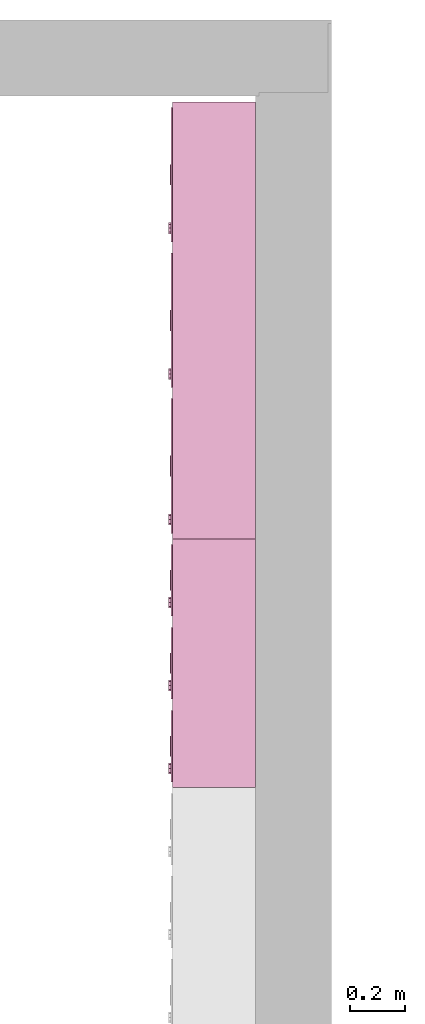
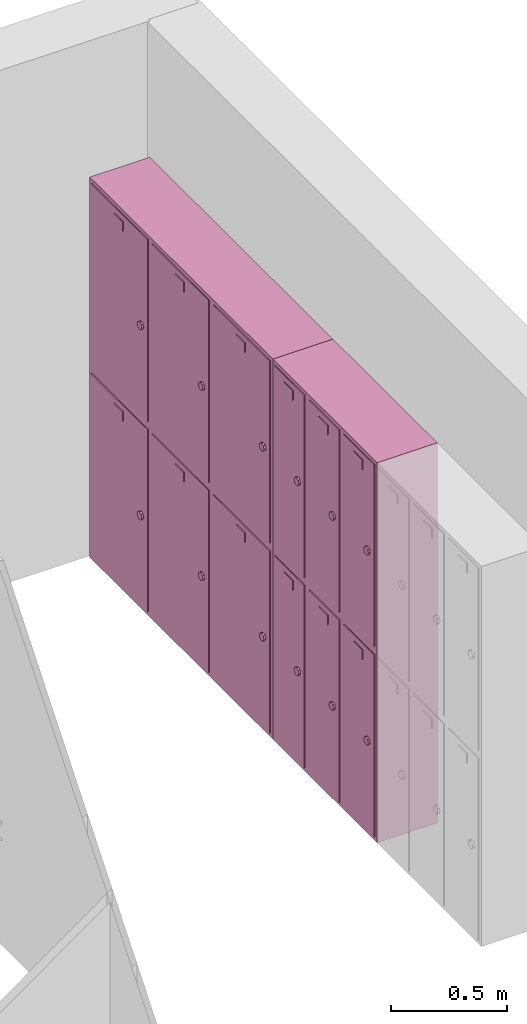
# One storey, part 15 of 22: 2 furnishings.
"""IFC2X3 building model written with IfcOpenShell, lengths in millimetres."""

from ifc_helpers import new_model, entity, si_unit, converted_unit, derived_unit, direction, frame, frame_2d, origin, origin_2d_with_axis, place, context, subcontext, project, spatial, polyline, rectangle, outline, extrude, source, transform, mapped, material, material_list, type_object, type_shapes, element, save


model = new_model("IFC2X3")

# Units and contexts
model_context = context("Model", 3, precision=0.01, world=origin(), true_north=direction((6.12303176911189e-17, 1.0)))
body_context = subcontext(model_context, "Body", "Model", "MODEL_VIEW")
ifc_project = project(units=[si_unit("LENGTHUNIT", "METRE", prefix="MILLI"), si_unit("AREAUNIT", "SQUARE_METRE"), si_unit("VOLUMEUNIT", "CUBIC_METRE"), converted_unit("PLANEANGLEUNIT", "DEGREE", entity("IfcRatioMeasure", 0.0174532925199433), si_unit("PLANEANGLEUNIT", "RADIAN"), dimensions=[0, 0, 0, 0, 0, 0, 0]), si_unit("MASSUNIT", "GRAM", prefix="KILO"), derived_unit("MASSDENSITYUNIT", [(si_unit("MASSUNIT", "GRAM", prefix="KILO"), 1), (si_unit("LENGTHUNIT", "METRE"), -3)]), si_unit("TIMEUNIT", "SECOND"), si_unit("FREQUENCYUNIT", "HERTZ"), si_unit("THERMODYNAMICTEMPERATUREUNIT", "DEGREE_CELSIUS"), derived_unit("THERMALTRANSMITTANCEUNIT", [(si_unit("MASSUNIT", "GRAM", prefix="KILO"), 1), (si_unit("THERMODYNAMICTEMPERATUREUNIT", "KELVIN"), -1), (si_unit("TIMEUNIT", "SECOND"), -3)]), derived_unit("VOLUMETRICFLOWRATEUNIT", [(si_unit("LENGTHUNIT", "METRE"), 3), (si_unit("TIMEUNIT", "SECOND"), -1)]), si_unit("ELECTRICCURRENTUNIT", "AMPERE"), si_unit("ELECTRICVOLTAGEUNIT", "VOLT"), si_unit("POWERUNIT", "WATT"), si_unit("FORCEUNIT", "NEWTON", prefix="KILO"), si_unit("ILLUMINANCEUNIT", "LUX"), si_unit("LUMINOUSFLUXUNIT", "LUMEN"), si_unit("LUMINOUSINTENSITYUNIT", "CANDELA"), derived_unit("USERDEFINED", [(si_unit("MASSUNIT", "GRAM", prefix="KILO"), -1), (si_unit("LENGTHUNIT", "METRE"), -2), (si_unit("TIMEUNIT", "SECOND"), 3), (si_unit("LUMINOUSFLUXUNIT", "LUMEN"), 1)]), derived_unit("LINEARVELOCITYUNIT", [(si_unit("LENGTHUNIT", "METRE"), 1), (si_unit("TIMEUNIT", "SECOND"), -1)]), si_unit("PRESSUREUNIT", "PASCAL"), derived_unit("USERDEFINED", [(si_unit("LENGTHUNIT", "METRE"), -2), (si_unit("MASSUNIT", "GRAM", prefix="KILO"), 1), (si_unit("TIMEUNIT", "SECOND"), -2)])], contexts=[model_context])

# Site, building, storey
site_placement = place(None, origin())
site = spatial("IfcSite", under=ifc_project, at=site_placement, Name="Default", CompositionType="ELEMENT")
building_placement = place(site_placement, origin())
building = spatial("IfcBuilding", under=site, at=building_placement, CompositionType="ELEMENT")
storey_placement = place(building_placement, frame((0.0, 0.0, -3000.0)))
storey = spatial("IfcBuildingStorey", under=building, at=storey_placement, Name="-2. Story", CompositionType="ELEMENT", Elevation=-3000.0)

# Furnishings
ifc_material_1 = material(Name="Metal - Stainless Steel")
ifc_material_2 = material(Name="Paint - Glossy White")
ifc_material_3 = material(Name="Paint - Cobalt Blue")
ifc_material_list_1 = material_list([ifc_material_1, ifc_material_2, ifc_material_3])
ifc_material_list_2 = material_list([ifc_material_1, ifc_material_2, ifc_material_3])
furniture_type_1 = type_object("IfcFurnitureType", Name="FU - 010", material=ifc_material_list_2)
shared_shape_1 = source(origin(), body_context, "Body", "SweptSolid", [
    extrude(outline(polyline([(-7.65366865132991, -18.4775906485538), (7.65366864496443, -18.4775906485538), (18.4775906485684, -7.65366865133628), (18.4775906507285, 7.65366863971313), (7.65366865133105, 18.4775906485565), (-7.65366864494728, 18.4775906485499), (-18.4775906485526, 7.65366865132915), (-18.4775906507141, -7.65366863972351), (-7.65366865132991, -18.4775906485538)])), frame((53933.5254833, 88673.9483369, -1400.0), z_axis=(1.0, 0.0, 0.0), x_axis=(0.0, 0.923879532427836, 0.382683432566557)), (0.0, 0.0, 1.0), 10.0000000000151),
    extrude(rectangle(XDim=4.99999999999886, YDim=75.0000000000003, at=origin_2d_with_axis()), frame((53941.0254833, 88753.9483369, -1000.0), z_axis=(0.0, 0.0, 1.0), x_axis=(-1.0, 0.0, 0.0)), (0.0, 0.0, 1.0), 50.0),
    extrude(rectangle(XDim=9.99999999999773, YDim=259.999999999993, at=frame_2d((0.0, 8.65441052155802e-12), x_axis=(1.0, 0.0))), frame((53948.5254833, 88753.9483369, -1880.0)), (0.0, 0.0, 1.0), 960.0),
    extrude(rectangle(XDim=20.0000000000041, YDim=300.000000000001, at=frame_2d((4.33164615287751e-12, 0.0), x_axis=(1.0, 0.0))), frame((54238.5254833, 88753.9483369, -1900.0), z_axis=(0.0, 0.0, 1.0), x_axis=(-1.0, 0.0, 0.0)), (0.0, 0.0, 1.0), 1000.0),
    extrude(outline(polyline([(-500.0, -150.0), (500.0, -150.0), (500.0, 150.0), (-500.0, 150.0), (-500.0, -150.0)]), holes=[polyline([(480.0, 130.0), (480.0, -130.0), (-480.0, -130.0), (-480.0, 130.0), (480.0, 130.0)])]), frame((53948.5254833, 88753.9483369, -1400.0), z_axis=(1.0, 0.0, 0.0), x_axis=(0.0, 0.0, -1.0)), (0.0, 0.0, 1.0), 279.999999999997),
    extrude(outline(polyline([(-7.65366865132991, -18.4775906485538), (7.65366864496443, -18.4775906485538), (18.4775906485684, -7.65366865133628), (18.4775906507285, 7.65366863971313), (7.65366865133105, 18.4775906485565), (-7.65366864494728, 18.4775906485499), (-18.4775906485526, 7.65366865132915), (-18.4775906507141, -7.65366863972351), (-7.65366865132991, -18.4775906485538)])), frame((53933.5254833, 88373.9483369, -1400.0), z_axis=(1.0, 0.0, 0.0), x_axis=(0.0, 0.923879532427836, 0.382683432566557)), (0.0, 0.0, 1.0), 10.0000000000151),
    extrude(rectangle(XDim=4.99999999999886, YDim=75.0000000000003, at=origin_2d_with_axis()), frame((53941.0254833, 88453.9483369, -1000.0), z_axis=(0.0, 0.0, 1.0), x_axis=(-1.0, 0.0, 0.0)), (0.0, 0.0, 1.0), 50.0),
    extrude(rectangle(XDim=9.99999999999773, YDim=259.999999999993, at=frame_2d((0.0, 8.65441052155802e-12), x_axis=(1.0, 0.0))), frame((53948.5254833, 88453.9483369, -1880.0)), (0.0, 0.0, 1.0), 960.0),
    extrude(rectangle(XDim=20.0000000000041, YDim=300.000000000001, at=frame_2d((4.33164615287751e-12, 0.0), x_axis=(1.0, 0.0))), frame((54238.5254833, 88453.9483369, -1900.0), z_axis=(0.0, 0.0, 1.0), x_axis=(-1.0, 0.0, 0.0)), (0.0, 0.0, 1.0), 1000.0),
    extrude(outline(polyline([(-500.0, -150.0), (500.0, -150.0), (500.0, 150.0), (-500.0, 150.0), (-500.0, -150.0)]), holes=[polyline([(480.0, 130.0), (480.0, -130.0), (-480.0, -130.0), (-480.0, 130.0), (480.0, 130.0)])]), frame((53948.5254833, 88453.9483369, -1400.0), z_axis=(1.0, 0.0, 0.0), x_axis=(0.0, 0.0, -1.0)), (0.0, 0.0, 1.0), 279.999999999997),
    extrude(outline(polyline([(-7.65366865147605, -18.4775906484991), (7.65366864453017, -18.4775906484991), (18.4775906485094, -7.65366865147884), (18.4775906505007, 7.65366863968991), (7.65366865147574, 18.4775906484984), (-7.65366864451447, 18.4775906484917), (-18.4775906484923, 7.65366865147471), (-18.477590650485, -7.65366863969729), (-7.65366865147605, -18.4775906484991)])), frame((53933.5254833, 88073.9483369, -1400.0), z_axis=(1.0, 0.0, 0.0), x_axis=(0.0, 0.923879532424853, 0.38268343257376)), (0.0, 0.0, 1.0), 10.0000000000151),
    extrude(rectangle(XDim=4.99999999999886, YDim=75.0000000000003, at=origin_2d_with_axis()), frame((53941.0254833, 88153.9483369, -1000.0), z_axis=(0.0, 0.0, 1.0), x_axis=(-1.0, 0.0, 0.0)), (0.0, 0.0, 1.0), 50.0),
    extrude(rectangle(XDim=9.99999999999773, YDim=259.999999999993, at=frame_2d((0.0, 8.65441052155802e-12), x_axis=(1.0, 0.0))), frame((53948.5254833, 88153.9483369, -1880.0)), (0.0, 0.0, 1.0), 960.0),
    extrude(rectangle(XDim=20.0000000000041, YDim=299.999999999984, at=frame_2d((4.33164615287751e-12, 8.65441052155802e-12), x_axis=(1.0, 0.0))), frame((54238.5254833, 88153.9483369, -1900.0), z_axis=(0.0, 0.0, 1.0), x_axis=(-1.0, 0.0, 0.0)), (0.0, 0.0, 1.0), 1000.0),
    extrude(outline(polyline([(-500.0, -150.0), (500.0, -150.0), (500.0, 150.0), (-500.0, 150.0), (-500.0, -150.0)]), holes=[polyline([(480.0, 130.0), (480.0, -130.0), (-480.0, -130.0), (-480.0, 130.0), (480.0, 130.0)])]), frame((53948.5254833, 88153.9483369, -1400.0), z_axis=(1.0, 0.0, 0.0), x_axis=(0.0, 0.0, -1.0)), (0.0, 0.0, 1.0), 279.999999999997),
    extrude(outline(polyline([(-7.65366864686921, -18.4775906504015), (7.65366864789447, -18.4775906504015), (18.477590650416, -7.65366864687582), (18.4775906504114, 7.65366864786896), (7.65366864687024, 18.477590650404), (-7.65366864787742, 18.4775906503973), (-18.4775906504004, 7.65366864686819), (-18.4775906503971, -7.65366864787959), (-7.65366864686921, -18.4775906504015)])), frame((53933.5254833, 88673.9483369, -2400.0), z_axis=(1.0, 0.0, 0.0), x_axis=(0.0, 0.923879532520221, 0.382683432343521)), (0.0, 0.0, 1.0), 10.0000000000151),
    extrude(rectangle(XDim=4.99999999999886, YDim=75.0000000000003, at=origin_2d_with_axis()), frame((53941.0254833, 88753.9483369, -2000.0), z_axis=(0.0, 0.0, 1.0), x_axis=(-1.0, 0.0, 0.0)), (0.0, 0.0, 1.0), 50.0),
    extrude(rectangle(XDim=9.99999999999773, YDim=259.999999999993, at=frame_2d((0.0, 8.65441052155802e-12), x_axis=(1.0, 0.0))), frame((53948.5254833, 88753.9483369, -2880.0)), (0.0, 0.0, 1.0), 960.0),
    extrude(rectangle(XDim=20.0000000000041, YDim=300.000000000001, at=frame_2d((4.33164615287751e-12, 0.0), x_axis=(1.0, 0.0))), frame((54238.5254833, 88753.9483369, -2900.0), z_axis=(0.0, 0.0, 1.0), x_axis=(-1.0, 0.0, 0.0)), (0.0, 0.0, 1.0), 1000.0),
    extrude(outline(polyline([(-500.0, -150.0), (500.0, -150.0), (500.0, 150.0), (-500.0, 150.0), (-500.0, -150.0)]), holes=[polyline([(480.0, 130.0), (480.0, -130.0), (-480.0, -130.0), (-480.0, 130.0), (480.0, 130.0)])]), frame((53948.5254833, 88753.9483369, -2400.0), z_axis=(1.0, 0.0, 0.0), x_axis=(0.0, 0.0, -1.0)), (0.0, 0.0, 1.0), 279.999999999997),
    extrude(outline(polyline([(-7.65366864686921, -18.4775906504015), (7.65366864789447, -18.4775906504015), (18.477590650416, -7.65366864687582), (18.4775906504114, 7.65366864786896), (7.65366864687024, 18.477590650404), (-7.65366864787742, 18.4775906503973), (-18.4775906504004, 7.65366864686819), (-18.4775906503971, -7.65366864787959), (-7.65366864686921, -18.4775906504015)])), frame((53933.5254833, 88373.9483369, -2400.0), z_axis=(1.0, 0.0, 0.0), x_axis=(0.0, 0.923879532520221, 0.382683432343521)), (0.0, 0.0, 1.0), 10.0000000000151),
    extrude(rectangle(XDim=4.99999999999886, YDim=75.0000000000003, at=origin_2d_with_axis()), frame((53941.0254833, 88453.9483369, -2000.0), z_axis=(0.0, 0.0, 1.0), x_axis=(-1.0, 0.0, 0.0)), (0.0, 0.0, 1.0), 50.0),
    extrude(rectangle(XDim=9.99999999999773, YDim=259.999999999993, at=frame_2d((0.0, 8.65441052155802e-12), x_axis=(1.0, 0.0))), frame((53948.5254833, 88453.9483369, -2880.0)), (0.0, 0.0, 1.0), 960.0),
    extrude(rectangle(XDim=20.0000000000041, YDim=300.000000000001, at=frame_2d((4.33164615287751e-12, 0.0), x_axis=(1.0, 0.0))), frame((54238.5254833, 88453.9483369, -2900.0), z_axis=(0.0, 0.0, 1.0), x_axis=(-1.0, 0.0, 0.0)), (0.0, 0.0, 1.0), 1000.0),
    extrude(outline(polyline([(-500.0, -150.0), (500.0, -150.0), (500.0, 150.0), (-500.0, 150.0), (-500.0, -150.0)]), holes=[polyline([(480.0, 130.0), (480.0, -130.0), (-480.0, -130.0), (-480.0, 130.0), (480.0, 130.0)])]), frame((53948.5254833, 88453.9483369, -2400.0), z_axis=(1.0, 0.0, 0.0), x_axis=(0.0, 0.0, -1.0)), (0.0, 0.0, 1.0), 279.999999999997),
    extrude(outline(polyline([(-7.65366864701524, -18.4775906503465), (7.65366864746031, -18.4775906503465), (18.477590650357, -7.65366864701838), (18.4775906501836, 7.65366864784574), (7.65366864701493, 18.4775906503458), (-7.65366864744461, 18.4775906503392), (-18.4775906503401, 7.65366864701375), (-18.477590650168, -7.65366864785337), (-7.65366864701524, -18.4775906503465)])), frame((53933.5254833, 88073.9483369, -2400.0), z_axis=(1.0, 0.0, 0.0), x_axis=(0.0, 0.923879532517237, 0.382683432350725)), (0.0, 0.0, 1.0), 10.0000000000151),
    extrude(rectangle(XDim=4.99999999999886, YDim=75.0000000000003, at=origin_2d_with_axis()), frame((53941.0254833, 88153.9483369, -2000.0), z_axis=(0.0, 0.0, 1.0), x_axis=(-1.0, 0.0, 0.0)), (0.0, 0.0, 1.0), 50.0),
    extrude(rectangle(XDim=9.99999999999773, YDim=259.999999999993, at=frame_2d((0.0, 8.65441052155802e-12), x_axis=(1.0, 0.0))), frame((53948.5254833, 88153.9483369, -2880.0)), (0.0, 0.0, 1.0), 960.0),
    extrude(rectangle(XDim=20.0000000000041, YDim=299.999999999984, at=frame_2d((4.33164615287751e-12, 8.65441052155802e-12), x_axis=(1.0, 0.0))), frame((54238.5254833, 88153.9483369, -2900.0), z_axis=(0.0, 0.0, 1.0), x_axis=(-1.0, 0.0, 0.0)), (0.0, 0.0, 1.0), 1000.0),
    extrude(outline(polyline([(-500.0, -150.0), (500.0, -150.0), (500.0, 150.0), (-500.0, 150.0), (-500.0, -150.0)]), holes=[polyline([(480.0, 130.0), (480.0, -130.0), (-480.0, -130.0), (-480.0, 130.0), (480.0, 130.0)])]), frame((53948.5254833, 88153.9483369, -2400.0), z_axis=(1.0, 0.0, 0.0), x_axis=(0.0, 0.0, -1.0)), (0.0, 0.0, 1.0), 279.999999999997),
])
type_shapes(furniture_type_1, [shared_shape_1])
furnishing_1_placement = place(storey_placement, frame((0.0, 0.0, 3000.0)))
element("IfcFurnishingElement", 1, at=furnishing_1_placement, inside=storey, type_object=furniture_type_1, material=ifc_material_list_1, Name="FU - 010 1554754:FU - 010 1554754", ObjectType="FU - 010 1554754:FU - 010 1554754", context=body_context, shape_type="MappedRepresentation", body=[
    mapped(shared_shape_1, transform((0.0, 0.0, 0.0), scale=1.0)),
])
ifc_material_list_3 = material_list([ifc_material_1, ifc_material_2, ifc_material_3])
ifc_material_list_4 = material_list([ifc_material_1, ifc_material_2, ifc_material_3])
furniture_type_2 = type_object("IfcFurnitureType", Name="FU - 010", material=ifc_material_list_4)
shared_shape_2 = source(origin(), body_context, "Body", "SweptSolid", [
    extrude(outline(polyline([(-7.65366865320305, -18.4775906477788), (7.65366863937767, -18.4775906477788), (18.4775906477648, -7.65366865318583), (18.4775906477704, 7.65366863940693), (7.6536686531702, 18.47759064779), (-7.65366863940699, 18.4775906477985), (-18.4775906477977, 7.6536686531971), (-18.4775906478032, -7.65366863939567), (-7.65366865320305, -18.4775906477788)])), frame((53933.5254833, 90026.79658138, -1400.0), z_axis=(1.0, 0.0, 0.0), x_axis=(0.0, 0.92387953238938, 0.382683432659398)), (0.0, 0.0, 1.0), 10.0000000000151),
    extrude(rectangle(XDim=4.99999999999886, YDim=75.0000000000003, at=origin_2d_with_axis()), frame((53941.0254833, 90220.0086425, -1000.0), z_axis=(0.0, 0.0, 1.0), x_axis=(-1.0, 0.0, 0.0)), (0.0, 0.0, 1.0), 50.0),
    extrude(rectangle(XDim=9.99999999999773, YDim=486.424122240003, at=origin_2d_with_axis()), frame((53948.5254833, 90220.0086425, -1880.0)), (0.0, 0.0, 1.0), 960.0),
    extrude(rectangle(XDim=20.0000000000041, YDim=526.424122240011, at=frame_2d((4.33164615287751e-12, 8.64019966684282e-12), x_axis=(1.0, 0.0))), frame((54238.5254833, 90220.0086425, -1900.0), z_axis=(0.0, 0.0, 1.0), x_axis=(-1.0, 0.0, 0.0)), (0.0, 0.0, 1.0), 1000.0),
    extrude(outline(polyline([(-500.0, -263.212061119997), (500.0, -263.212061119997), (500.0, 263.212061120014), (-500.0, 263.212061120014), (-500.0, -263.212061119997)]), holes=[polyline([(480.0, 243.212061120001), (480.0, -243.212061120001), (-480.0, -243.212061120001), (-480.0, 243.212061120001), (480.0, 243.212061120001)])]), frame((53948.5254833, 90220.0086425, -1400.0), z_axis=(1.0, 0.0, 0.0), x_axis=(0.0, 0.0, -1.0)), (0.0, 0.0, 1.0), 279.999999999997),
    extrude(outline(polyline([(-7.65366865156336, -18.4775906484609), (7.65366864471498, -18.4775906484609), (18.477590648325, -7.65366865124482), (18.4775906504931, 7.65366863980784), (7.65366865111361, 18.4775906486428), (-7.65366864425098, 18.4775906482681), (-18.4775906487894, 7.6536686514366), (-18.4775906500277, -7.65366863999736), (-7.65366865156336, -18.4775906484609)])), frame((53933.5254833, 89500.3724591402, -1400.0), z_axis=(1.0, 0.0, 0.0), x_axis=(0.0, 0.923879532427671, 0.382683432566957)), (0.0, 0.0, 1.0), 10.0000000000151),
    extrude(rectangle(XDim=4.99999999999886, YDim=75.0000000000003, at=origin_2d_with_axis()), frame((53941.0254833, 89693.584520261, -1000.0), z_axis=(0.0, 0.0, 1.0), x_axis=(-1.0, 0.0, 0.0)), (0.0, 0.0, 1.0), 50.0),
    extrude(rectangle(XDim=9.99999999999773, YDim=486.424122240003, at=origin_2d_with_axis()), frame((53948.5254833, 89693.58452026, -1880.0)), (0.0, 0.0, 1.0), 960.0),
    extrude(rectangle(XDim=20.0000000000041, YDim=526.424122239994, at=frame_2d((4.33164615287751e-12, 0.0), x_axis=(1.0, 0.0))), frame((54238.5254833, 89693.58452026, -1900.0), z_axis=(0.0, 0.0, 1.0), x_axis=(-1.0, 0.0, 0.0)), (0.0, 0.0, 1.0), 1000.0),
    extrude(outline(polyline([(-500.0, -263.212061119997), (500.0, -263.212061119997), (500.0, 263.212061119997), (-500.0, 263.212061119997), (-500.0, -263.212061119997)]), holes=[polyline([(480.0, 243.212061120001), (480.0, -243.212061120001), (-480.0, -243.212061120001), (-480.0, 243.212061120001), (480.0, 243.212061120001)])]), frame((53948.5254833, 89693.58452026, -1400.0), z_axis=(1.0, 0.0, 0.0), x_axis=(0.0, 0.0, -1.0)), (0.0, 0.0, 1.0), 279.999999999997),
    extrude(outline(polyline([(-7.65366865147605, -18.4775906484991), (7.65366864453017, -18.4775906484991), (18.4775906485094, -7.65366865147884), (18.4775906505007, 7.65366863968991), (7.65366865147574, 18.4775906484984), (-7.65366864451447, 18.4775906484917), (-18.4775906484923, 7.65366865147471), (-18.477590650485, -7.65366863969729), (-7.65366865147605, -18.4775906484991)])), frame((53933.5254833, 88973.9483369, -1400.0), z_axis=(1.0, 0.0, 0.0), x_axis=(0.0, 0.923879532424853, 0.38268343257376)), (0.0, 0.0, 1.0), 10.0000000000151),
    extrude(rectangle(XDim=4.99999999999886, YDim=75.0000000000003, at=origin_2d_with_axis()), frame((53941.0254833, 89167.16039802, -1000.0), z_axis=(0.0, 0.0, 1.0), x_axis=(-1.0, 0.0, 0.0)), (0.0, 0.0, 1.0), 50.0),
    extrude(rectangle(XDim=9.99999999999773, YDim=486.424122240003, at=origin_2d_with_axis()), frame((53948.5254833, 89167.16039802, -1880.0)), (0.0, 0.0, 1.0), 960.0),
    extrude(rectangle(XDim=20.0000000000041, YDim=526.424122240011, at=frame_2d((4.33164615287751e-12, 8.64019966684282e-12), x_axis=(1.0, 0.0))), frame((54238.5254833, 89167.16039802, -1900.0), z_axis=(0.0, 0.0, 1.0), x_axis=(-1.0, 0.0, 0.0)), (0.0, 0.0, 1.0), 1000.0),
    extrude(outline(polyline([(-500.0, -263.212061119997), (500.0, -263.212061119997), (500.0, 263.212061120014), (-500.0, 263.212061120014), (-500.0, -263.212061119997)]), holes=[polyline([(480.0, 243.212061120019), (480.0, -243.212061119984), (-480.0, -243.212061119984), (-480.0, 243.212061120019), (480.0, 243.212061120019)])]), frame((53948.5254833, 89167.16039802, -1400.0), z_axis=(1.0, 0.0, 0.0), x_axis=(0.0, 0.0, -1.0)), (0.0, 0.0, 1.0), 279.999999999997),
    extrude(outline(polyline([(-7.65366864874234, -18.4775906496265), (7.65366864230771, -18.4775906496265), (18.4775906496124, -7.65366864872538), (18.4775906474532, 7.65366864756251), (7.6536686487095, 18.4775906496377), (-7.65366864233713, 18.477590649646), (-18.4775906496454, 7.65366864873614), (-18.4775906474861, -7.6536686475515), (-7.65366864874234, -18.4775906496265)])), frame((53933.5254833, 90026.79658138, -2400.0), z_axis=(1.0, 0.0, 0.0), x_axis=(0.0, 0.923879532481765, 0.382683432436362)), (0.0, 0.0, 1.0), 10.0000000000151),
    extrude(rectangle(XDim=4.99999999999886, YDim=75.0000000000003, at=origin_2d_with_axis()), frame((53941.0254833, 90220.0086425, -2000.0), z_axis=(0.0, 0.0, 1.0), x_axis=(-1.0, 0.0, 0.0)), (0.0, 0.0, 1.0), 50.0),
    extrude(rectangle(XDim=9.99999999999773, YDim=486.424122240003, at=origin_2d_with_axis()), frame((53948.5254833, 90220.0086425, -2880.0)), (0.0, 0.0, 1.0), 960.0),
    extrude(rectangle(XDim=20.0000000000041, YDim=526.424122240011, at=frame_2d((4.33164615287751e-12, 8.64019966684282e-12), x_axis=(1.0, 0.0))), frame((54238.5254833, 90220.0086425, -2900.0), z_axis=(0.0, 0.0, 1.0), x_axis=(-1.0, 0.0, 0.0)), (0.0, 0.0, 1.0), 1000.0),
    extrude(outline(polyline([(-500.0, -263.212061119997), (500.0, -263.212061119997), (500.0, 263.212061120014), (-500.0, 263.212061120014), (-500.0, -263.212061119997)]), holes=[polyline([(480.0, 243.212061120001), (480.0, -243.212061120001), (-480.0, -243.212061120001), (-480.0, 243.212061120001), (480.0, 243.212061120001)])]), frame((53948.5254833, 90220.0086425, -2400.0), z_axis=(1.0, 0.0, 0.0), x_axis=(0.0, 0.0, -1.0)), (0.0, 0.0, 1.0), 279.999999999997),
    extrude(outline(polyline([(-7.65366864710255, -18.4775906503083), (7.65366864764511, -18.4775906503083), (18.4775906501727, -7.65366864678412), (18.4775906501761, 7.65366864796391), (7.65366864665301, 18.4775906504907), (-7.65366864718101, 18.4775906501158), (-18.4775906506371, 7.6536686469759), (-18.4775906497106, -7.65366864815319), (-7.65366864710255, -18.4775906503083)])), frame((53933.5254833, 89500.3724591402, -2400.0), z_axis=(1.0, 0.0, 0.0), x_axis=(0.0, 0.923879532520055, 0.382683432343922)), (0.0, 0.0, 1.0), 10.0000000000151),
    extrude(rectangle(XDim=4.99999999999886, YDim=75.0000000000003, at=origin_2d_with_axis()), frame((53941.0254833, 89693.584520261, -2000.0), z_axis=(0.0, 0.0, 1.0), x_axis=(-1.0, 0.0, 0.0)), (0.0, 0.0, 1.0), 50.0),
    extrude(rectangle(XDim=9.99999999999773, YDim=486.424122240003, at=origin_2d_with_axis()), frame((53948.5254833, 89693.58452026, -2880.0)), (0.0, 0.0, 1.0), 960.0),
    extrude(rectangle(XDim=20.0000000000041, YDim=526.424122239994, at=frame_2d((4.33164615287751e-12, 0.0), x_axis=(1.0, 0.0))), frame((54238.5254833, 89693.58452026, -2900.0), z_axis=(0.0, 0.0, 1.0), x_axis=(-1.0, 0.0, 0.0)), (0.0, 0.0, 1.0), 1000.0),
    extrude(outline(polyline([(-500.0, -263.212061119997), (500.0, -263.212061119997), (500.0, 263.212061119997), (-500.0, 263.212061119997), (-500.0, -263.212061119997)]), holes=[polyline([(480.0, 243.212061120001), (480.0, -243.212061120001), (-480.0, -243.212061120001), (-480.0, 243.212061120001), (480.0, 243.212061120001)])]), frame((53948.5254833, 89693.58452026, -2400.0), z_axis=(1.0, 0.0, 0.0), x_axis=(0.0, 0.0, -1.0)), (0.0, 0.0, 1.0), 279.999999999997),
    extrude(outline(polyline([(-7.65366864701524, -18.4775906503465), (7.65366864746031, -18.4775906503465), (18.477590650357, -7.65366864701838), (18.4775906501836, 7.65366864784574), (7.65366864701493, 18.4775906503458), (-7.65366864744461, 18.4775906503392), (-18.4775906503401, 7.65366864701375), (-18.477590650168, -7.65366864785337), (-7.65366864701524, -18.4775906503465)])), frame((53933.5254833, 88973.9483369, -2400.0), z_axis=(1.0, 0.0, 0.0), x_axis=(0.0, 0.923879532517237, 0.382683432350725)), (0.0, 0.0, 1.0), 10.0000000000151),
    extrude(rectangle(XDim=4.99999999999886, YDim=75.0000000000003, at=origin_2d_with_axis()), frame((53941.0254833, 89167.16039802, -2000.0), z_axis=(0.0, 0.0, 1.0), x_axis=(-1.0, 0.0, 0.0)), (0.0, 0.0, 1.0), 50.0),
    extrude(rectangle(XDim=9.99999999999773, YDim=486.424122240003, at=origin_2d_with_axis()), frame((53948.5254833, 89167.16039802, -2880.0)), (0.0, 0.0, 1.0), 960.0),
    extrude(rectangle(XDim=20.0000000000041, YDim=526.424122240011, at=frame_2d((4.33164615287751e-12, 8.64019966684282e-12), x_axis=(1.0, 0.0))), frame((54238.5254833, 89167.16039802, -2900.0), z_axis=(0.0, 0.0, 1.0), x_axis=(-1.0, 0.0, 0.0)), (0.0, 0.0, 1.0), 1000.0),
    extrude(outline(polyline([(-500.0, -263.212061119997), (500.0, -263.212061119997), (500.0, 263.212061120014), (-500.0, 263.212061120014), (-500.0, -263.212061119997)]), holes=[polyline([(480.0, 243.212061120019), (480.0, -243.212061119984), (-480.0, -243.212061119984), (-480.0, 243.212061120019), (480.0, 243.212061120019)])]), frame((53948.5254833, 89167.16039802, -2400.0), z_axis=(1.0, 0.0, 0.0), x_axis=(0.0, 0.0, -1.0)), (0.0, 0.0, 1.0), 279.999999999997),
])
type_shapes(furniture_type_2, [shared_shape_2])
furnishing_2_placement = place(storey_placement, frame((0.0, 0.0, 3000.0)))
element("IfcFurnishingElement", 2, at=furnishing_2_placement, inside=storey, type_object=furniture_type_2, material=ifc_material_list_3, Name="FU - 010 1556967:FU - 010 1556967", ObjectType="FU - 010 1556967:FU - 010 1556967", context=body_context, shape_type="MappedRepresentation", body=[
    mapped(shared_shape_2, transform((0.0, 0.0, 0.0), scale=1.0)),
])

save(model, "model.ifc")
